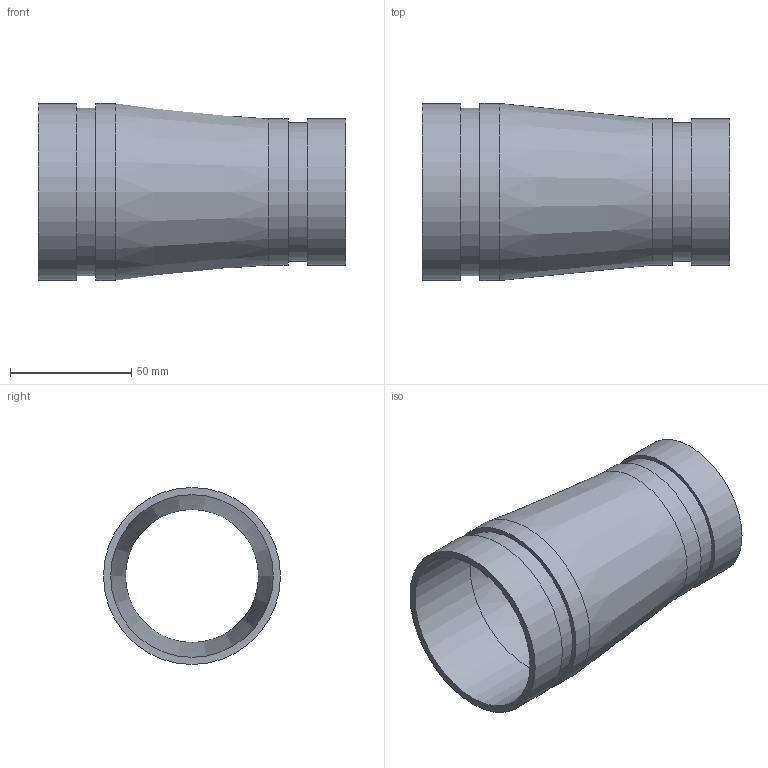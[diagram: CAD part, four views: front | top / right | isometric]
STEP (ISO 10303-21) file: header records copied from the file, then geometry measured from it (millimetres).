
FILE_DESCRIPTION(/* description */ ('VIC REDUCER CONCENTRIC No 450-SS','CAx-IF Rec.Pracs.---Representation and Presentation of Product Manufacturing Information (PMI)---4.0---2014-10-13'),/* implementation_level */ '2;1');
FILE_NAME(/* name */ 'C:\Users\kkamble\AppData\Roaming\Autodesk\ApplicationPlugins\Back Up\Victaulic_SS-OGS_Reducer Concentric_Sched 10S_No 450 SS (OGS)\Victaulic_SS-OGS_Reducer Concentric_Sched 10S_No 450 SS (OGS)_02.5x02.0 (65x50).stp',/* time_stamp */ '2020-09-08T12:32:23+05:00',/* author */ ('CORINNE GRAY'),/* organization */ ('Victaulic'),/* preprocessor_version */ 'ST-DEVELOPER v17.2',/* originating_system */ 'Autodesk Inventor 2019',/* authorisation */ '');
FILE_SCHEMA (('AP242_MANAGED_MODEL_BASED_3D_ENGINEERING_MIM_LF { 1 0 10303 442 1 1 4 }'));
Length unit declared in the file: inch
Products named in the file (1): 450 SS-02.5x02.0
Bounding box: 127 x 73.03 x 73.03 mm (x, y, z)
Volume: 67146.4 mm3; surface area: 53485.2 mm2
Topology: 1 solids, 1 shells, 16 faces, 42 edges, 32 vertices
Faces by surface type: cylinder 8, plane 6, cone 2
Full cylindrical faces by diameter (mm): 54.864 x1, 57.15 x1, 60.325 x2, 67.056 x1, 69.088 x1, 73.025 x2
Entity records: 686 total; most frequent: DIRECTION 134, CARTESIAN_POINT 108, ORIENTED_EDGE 84, AXIS2_PLACEMENT_3D 62, EDGE_CURVE 42, CIRCLE 32, VERTEX_POINT 32, EDGE_LOOP 22
